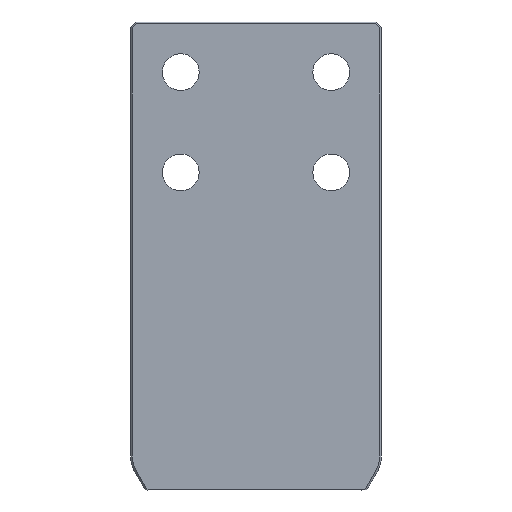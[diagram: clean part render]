
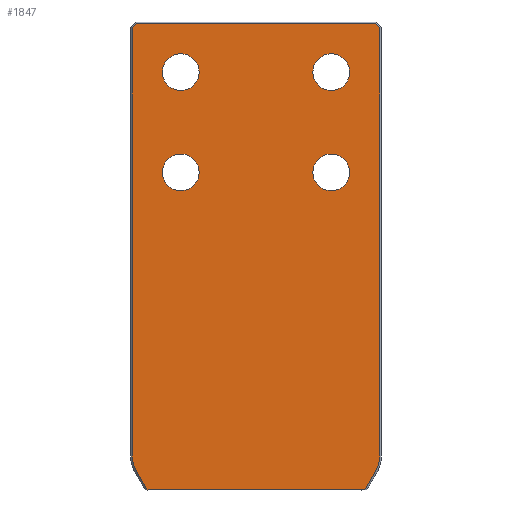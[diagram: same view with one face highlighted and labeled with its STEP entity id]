
A CAD part, front view. The second image highlights one B-rep face of the part: STEP entity #1847.
In plain terms, the highlighted planar face has unit normal (0, -1, 0).
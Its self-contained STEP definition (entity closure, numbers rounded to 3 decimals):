
#126=VERTEX_POINT(' ',#127);
#127=CARTESIAN_POINT('',(45.,-50.,-101.));
#128=VERTEX_POINT(' ',#129);
#129=CARTESIAN_POINT('',(45.,-50.,-79.));
#134=VERTEX_POINT(' ',#135);
#135=CARTESIAN_POINT('',(-45.,-50.,-41.));
#136=VERTEX_POINT(' ',#137);
#137=CARTESIAN_POINT('',(-45.,-50.,-19.));
#142=VERTEX_POINT(' ',#143);
#143=CARTESIAN_POINT('',(45.,-50.,-41.));
#144=VERTEX_POINT(' ',#145);
#145=CARTESIAN_POINT('',(45.,-50.,-19.));
#150=VERTEX_POINT(' ',#151);
#151=CARTESIAN_POINT('',(-45.,-50.,-101.));
#152=VERTEX_POINT(' ',#153);
#153=CARTESIAN_POINT('',(-45.,-50.,-79.));
#236=VERTEX_POINT(' ',#237);
#237=CARTESIAN_POINT('',(65.185,-50.,-280.));
#238=VERTEX_POINT(' ',#239);
#239=CARTESIAN_POINT('',(71.454,-50.,-269.141));
#240=VERTEX_POINT(' ',#241);
#241=CARTESIAN_POINT('',(74.,-50.,-259.641));
#242=VERTEX_POINT(' ',#243);
#243=CARTESIAN_POINT('',(74.,-50.,-120.));
#244=VERTEX_POINT(' ',#245);
#245=CARTESIAN_POINT('',(74.,-50.,-3.414));
#248=VERTEX_POINT(' ',#249);
#249=CARTESIAN_POINT('',(71.586,-50.,-1.));
#252=VERTEX_POINT(' ',#253);
#253=CARTESIAN_POINT('',(-71.586,-50.,-1.));
#256=VERTEX_POINT(' ',#257);
#257=CARTESIAN_POINT('',(-74.,-50.,-3.414));
#266=VERTEX_POINT(' ',#267);
#267=CARTESIAN_POINT('',(-65.185,-50.,-280.));
#268=VERTEX_POINT(' ',#269);
#269=CARTESIAN_POINT('',(-74.,-50.,-120.));
#270=VERTEX_POINT(' ',#271);
#271=CARTESIAN_POINT('',(-74.,-50.,-259.641));
#272=VERTEX_POINT(' ',#273);
#273=CARTESIAN_POINT('',(-71.454,-50.,-269.141));
#274=CIRCLE('',#275,11.);
#275=AXIS2_PLACEMENT_3D('',#276,#277,#278);
#276=CARTESIAN_POINT('',(45.,-50.,-90.));
#277=DIRECTION('',(0.,-1.,0.));
#278=DIRECTION('',(-1.,0.,0.));
#279=EDGE_CURVE(' ',#126,#128,#274,.T.);
#296=CIRCLE('',#297,11.);
#297=AXIS2_PLACEMENT_3D('',#298,#299,#300);
#298=CARTESIAN_POINT('',(45.,-50.,-90.));
#299=DIRECTION('',(0.,-1.,0.));
#300=DIRECTION('',(1.,0.,0.));
#301=EDGE_CURVE(' ',#128,#126,#296,.T.);
#308=CIRCLE('',#309,11.);
#309=AXIS2_PLACEMENT_3D('',#310,#311,#312);
#310=CARTESIAN_POINT('',(-45.,-50.,-30.));
#311=DIRECTION('',(0.,-1.,0.));
#312=DIRECTION('',(-1.,0.,0.));
#313=EDGE_CURVE(' ',#134,#136,#308,.T.);
#330=CIRCLE('',#331,11.);
#331=AXIS2_PLACEMENT_3D('',#332,#333,#334);
#332=CARTESIAN_POINT('',(-45.,-50.,-30.));
#333=DIRECTION('',(0.,-1.,0.));
#334=DIRECTION('',(1.,0.,0.));
#335=EDGE_CURVE(' ',#136,#134,#330,.T.);
#342=CIRCLE('',#343,11.);
#343=AXIS2_PLACEMENT_3D('',#344,#345,#346);
#344=CARTESIAN_POINT('',(45.,-50.,-30.));
#345=DIRECTION('',(0.,1.,0.));
#346=DIRECTION('',(-1.,0.,0.));
#347=EDGE_CURVE(' ',#142,#144,#342,.F.);
#364=CIRCLE('',#365,11.);
#365=AXIS2_PLACEMENT_3D('',#366,#367,#368);
#366=CARTESIAN_POINT('',(45.,-50.,-30.));
#367=DIRECTION('',(0.,1.,0.));
#368=DIRECTION('',(1.,0.,0.));
#369=EDGE_CURVE(' ',#144,#142,#364,.F.);
#376=CIRCLE('',#377,11.);
#377=AXIS2_PLACEMENT_3D('',#378,#379,#380);
#378=CARTESIAN_POINT('',(-45.,-50.,-90.));
#379=DIRECTION('',(0.,1.,0.));
#380=DIRECTION('',(-1.,0.,0.));
#381=EDGE_CURVE(' ',#150,#152,#376,.F.);
#398=CIRCLE('',#399,11.);
#399=AXIS2_PLACEMENT_3D('',#400,#401,#402);
#400=CARTESIAN_POINT('',(-45.,-50.,-90.));
#401=DIRECTION('',(0.,1.,0.));
#402=DIRECTION('',(1.,0.,0.));
#403=EDGE_CURVE(' ',#152,#150,#398,.F.);
#795=LINE('',#796,#797);
#796=CARTESIAN_POINT('',(71.454,-50.,-269.141));
#797=VECTOR('',#798,1.);
#798=DIRECTION('',(-0.5,0.,-0.866));
#799=EDGE_CURVE(' ',#238,#236,#795,.T.);
#805=CIRCLE('',#806,19.);
#806=AXIS2_PLACEMENT_3D('',#807,#808,#809);
#807=CARTESIAN_POINT('',(55.,-50.,-259.641));
#808=DIRECTION('',(0.,1.,0.));
#809=DIRECTION('',(-0.966,0.,0.259));
#810=EDGE_CURVE(' ',#240,#238,#805,.T.);
#816=LINE('',#817,#818);
#817=CARTESIAN_POINT('',(74.,-50.,-120.));
#818=VECTOR('',#819,1.);
#819=DIRECTION('',(0.,0.,-1.));
#820=EDGE_CURVE(' ',#242,#240,#816,.T.);
#826=LINE('',#827,#828);
#827=CARTESIAN_POINT('',(74.,-50.,2.657));
#828=VECTOR('',#829,1.);
#829=DIRECTION('',(0.,0.,-1.));
#830=EDGE_CURVE(' ',#244,#242,#826,.T.);
#846=LINE('',#847,#848);
#847=CARTESIAN_POINT('',(67.293,-50.,3.293));
#848=VECTOR('',#849,1.);
#849=DIRECTION('',(0.707,0.,-0.707));
#850=EDGE_CURVE(' ',#248,#244,#846,.T.);
#866=LINE('',#867,#868);
#867=CARTESIAN_POINT('',(-77.657,-50.,-1.));
#868=VECTOR('',#869,1.);
#869=DIRECTION('',(1.,0.,0.));
#870=EDGE_CURVE(' ',#252,#248,#866,.T.);
#886=LINE('',#887,#888);
#887=CARTESIAN_POINT('',(-78.293,-50.,-7.707));
#888=VECTOR('',#889,1.);
#889=DIRECTION('',(0.707,0.,0.707));
#890=EDGE_CURVE(' ',#256,#252,#886,.T.);
#937=LINE('',#938,#939);
#938=CARTESIAN_POINT('',(-75.12,-50.,-280.));
#939=VECTOR('',#940,1.);
#940=DIRECTION('',(1.,0.,0.));
#941=EDGE_CURVE(' ',#236,#266,#937,.F.);
#942=LINE('',#943,#944);
#943=CARTESIAN_POINT('',(-74.,-50.,-120.));
#944=VECTOR('',#945,1.);
#945=DIRECTION('',(0.,0.,1.));
#946=EDGE_CURVE(' ',#268,#256,#942,.T.);
#947=LINE('',#948,#949);
#948=CARTESIAN_POINT('',(-74.,-50.,-259.641));
#949=VECTOR('',#950,1.);
#950=DIRECTION('',(0.,0.,1.));
#951=EDGE_CURVE(' ',#270,#268,#947,.T.);
#952=CIRCLE('',#953,19.);
#953=AXIS2_PLACEMENT_3D('',#954,#955,#956);
#954=CARTESIAN_POINT('',(-55.,-50.,-259.641));
#955=DIRECTION('',(0.,1.,0.));
#956=DIRECTION('',(0.966,0.,0.259));
#957=EDGE_CURVE(' ',#272,#270,#952,.T.);
#958=LINE('',#959,#960);
#959=CARTESIAN_POINT('',(-62.645,-50.,-284.399));
#960=VECTOR('',#961,1.);
#961=DIRECTION('',(-0.5,0.,0.866));
#962=EDGE_CURVE(' ',#266,#272,#958,.T.);
#1812=ORIENTED_EDGE('',*,*,#946,.F.);
#1813=ORIENTED_EDGE('',*,*,#951,.F.);
#1814=ORIENTED_EDGE('',*,*,#957,.F.);
#1815=ORIENTED_EDGE('',*,*,#962,.F.);
#1816=ORIENTED_EDGE('',*,*,#941,.F.);
#1817=ORIENTED_EDGE('',*,*,#799,.F.);
#1818=ORIENTED_EDGE('',*,*,#810,.F.);
#1819=ORIENTED_EDGE('',*,*,#820,.F.);
#1820=ORIENTED_EDGE('',*,*,#830,.F.);
#1821=ORIENTED_EDGE('',*,*,#850,.F.);
#1822=ORIENTED_EDGE('',*,*,#870,.F.);
#1823=ORIENTED_EDGE('',*,*,#890,.F.);
#1824=EDGE_LOOP('',(#1812,#1813,#1814,#1815,#1816,#1817,#1818,#1819,#1820,#1821,#1822,#1823));
#1825=FACE_OUTER_BOUND('',#1824,.T.);
#1826=ORIENTED_EDGE('',*,*,#403,.F.);
#1827=ORIENTED_EDGE('',*,*,#381,.F.);
#1828=EDGE_LOOP('',(#1826,#1827));
#1829=FACE_BOUND('',#1828,.T.);
#1830=ORIENTED_EDGE('',*,*,#369,.F.);
#1831=ORIENTED_EDGE('',*,*,#347,.F.);
#1832=EDGE_LOOP('',(#1830,#1831));
#1833=FACE_BOUND('',#1832,.T.);
#1834=ORIENTED_EDGE('',*,*,#335,.F.);
#1835=ORIENTED_EDGE('',*,*,#313,.F.);
#1836=EDGE_LOOP('',(#1834,#1835));
#1837=FACE_BOUND('',#1836,.T.);
#1838=ORIENTED_EDGE('',*,*,#301,.F.);
#1839=ORIENTED_EDGE('',*,*,#279,.F.);
#1840=EDGE_LOOP('',(#1838,#1839));
#1841=FACE_BOUND('',#1840,.T.);
#1842=PLANE('',#1843);
#1843=AXIS2_PLACEMENT_3D('',#1844,#1845,#1846);
#1844=CARTESIAN_POINT('',(0.,-50.,0.));
#1845=DIRECTION('',(0.,-1.,0.));
#1846=DIRECTION('',(0.,0.,-1.));
#1847=ADVANCED_FACE('',(#1825,#1829,#1833,#1837,#1841),#1842,.T.);
